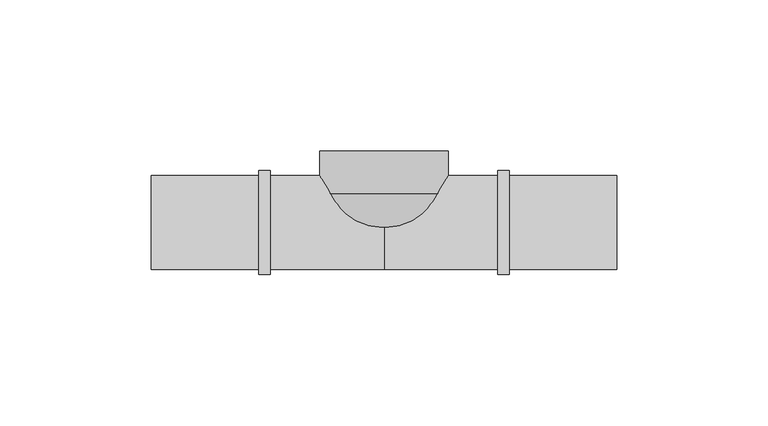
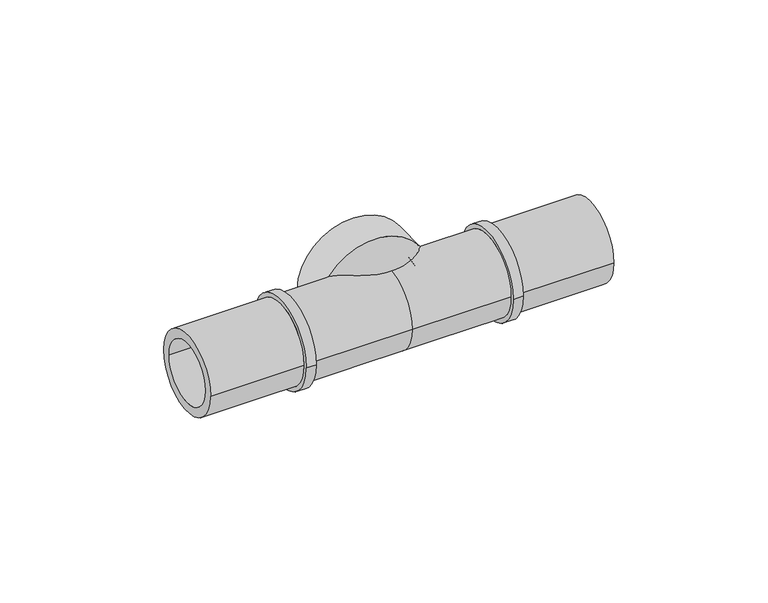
"""IFC4 building model written with IfcOpenShell, lengths in millimetres: pipe fitting geometry, FASTLOC_T-piece internal thread LX : FSL T thread LX PL."""

import ifcopenshell
import ifcopenshell.guid

model = None  # the IFC model being written
_history = None  # IfcOwnerHistory: only IFC2X3 demands one
_inside = {}  # id of a spatial element -> (the spatial element, [elements in it])
_under = {}  # id of a project, library or spatial element -> (it, [spatial elements below it])
_declared = {}  # id of a project -> (the project, [libraries it declares])
_typed = {}  # id of a type object -> (the type object, [elements of that type])
_made_of = {}  # id of a material, layer set ... -> (it, [elements and type objects made of it])


def new_model(schema):
    """Start an empty IFC model of exactly this schema.

    Asked for "IFC4X3", IfcOpenShell would pick the latest addendum, in which some entities
    have other attributes; the version numbers below select the first issue.
    IFC2X3 requires an IfcOwnerHistory on every rooted entity: one is made here for all.
    """
    global model, _history
    if schema == "IFC4X3":
        model = ifcopenshell.file(schema_version=(4, 3, 0, 0))
    else:
        model = ifcopenshell.file(schema=schema)
    _inside.clear()
    _under.clear()
    _declared.clear()
    _typed.clear()
    _made_of.clear()
    _history = None
    if model.schema == "IFC2X3":
        org = make("IfcOrganization", Name="unknown")
        user = make(
            "IfcPersonAndOrganization",
            ThePerson=make("IfcPerson", FamilyName="unknown"),
            TheOrganization=org,
        )
        app = make(
            "IfcApplication",
            ApplicationDeveloper=org,
            Version="unknown",
            ApplicationFullName="unknown",
            ApplicationIdentifier="unknown",
        )
        _history = make(
            "IfcOwnerHistory",
            OwningUser=user,
            OwningApplication=app,
            ChangeAction="ADDED",
            CreationDate=0,
        )
    return model


def make(cls, **values):
    """One entity of the class cls with the attributes given. An attribute that is None is left unset."""
    return model.create_entity(
        cls, **{name: value for name, value in values.items() if value is not None}
    )


def rooted(cls, **values):
    """An entity with a GlobalId (a new one), such as an element, a storey or a relation."""
    return make(cls, GlobalId=ifcopenshell.guid.new(), OwnerHistory=_history, **values)


def si_unit(unit_type, name, prefix=None):
    """IfcSIUnit, for example si_unit("LENGTHUNIT", "METRE", prefix="MILLI")."""
    return make("IfcSIUnit", UnitType=unit_type, Prefix=prefix, Name=name)


def assignment(units):
    """IfcUnitAssignment: the units of a project."""
    return None if units is None else make("IfcUnitAssignment", Units=units)


def point(xyz):
    """IfcCartesianPoint."""
    return None if xyz is None else make("IfcCartesianPoint", Coordinates=xyz)


def direction(xyz):
    """IfcDirection."""
    return None if xyz is None else make("IfcDirection", DirectionRatios=xyz)


def frame(location, z_axis=None, x_axis=None):
    """IfcAxis2Placement3D, a coordinate frame: its origin and axes. An axis left out is left unset."""
    return make(
        "IfcAxis2Placement3D",
        Location=point(location),
        Axis=direction(z_axis),
        RefDirection=direction(x_axis),
    )


def origin():
    """The frame at (0, 0, 0) with its axes left unset."""
    return frame((0.0, 0.0, 0.0))


def place(relative_to, where):
    """IfcLocalPlacement: puts the frame where relative to a parent placement (None: the world)."""
    return make(
        "IfcLocalPlacement", PlacementRelTo=relative_to, RelativePlacement=where
    )


def context(
    kind, dimensions, precision=None, world=None, true_north=None, identifier=None
):
    """IfcGeometricRepresentationContext, for example the 3D "Model" context."""
    return make(
        "IfcGeometricRepresentationContext",
        ContextIdentifier=identifier,
        ContextType=kind,
        CoordinateSpaceDimension=dimensions,
        Precision=precision,
        WorldCoordinateSystem=world,
        TrueNorth=true_north,
    )


def project(units=None, contexts=None):
    """IfcProject with its units and contexts."""
    return rooted(
        "IfcProject",
        Name="project",
        RepresentationContexts=contexts,
        UnitsInContext=assignment(units),
    )


def spatial(cls, under=None, at=None, **own):
    """A site, building, storey or space (cls), placed at a placement, below another one or the project."""
    s = rooted(cls, ObjectPlacement=at, **own)
    if under is not None:
        _under.setdefault(under.id(), (under, []))[1].append(s)
    return s


def polyline(points):
    """IfcPolyline through the points."""
    return make("IfcPolyline", Points=[point(p) for p in points])


def circle_curve(where, radius):
    """IfcCircle in the frame where."""
    return make("IfcCircle", Position=where, Radius=radius)


def ellipse_curve(where, semi_axis1, semi_axis2):
    """IfcEllipse in the frame where."""
    return make(
        "IfcEllipse", Position=where, SemiAxis1=semi_axis1, SemiAxis2=semi_axis2
    )


def trimmed(basis, trim1, trim2, sense, master):
    """IfcTrimmedCurve: the piece of a basis curve between two trims."""
    return make(
        "IfcTrimmedCurve",
        BasisCurve=basis,
        Trim1=trim1,
        Trim2=trim2,
        SenseAgreement=sense,
        MasterRepresentation=master,
    )


def shape(context_of_items, identifier, shape_type, items):
    """IfcShapeRepresentation: the items that make up one representation, for example the "Body"."""
    return make(
        "IfcShapeRepresentation",
        ContextOfItems=context_of_items,
        RepresentationIdentifier=identifier,
        RepresentationType=shape_type,
        Items=items,
    )


def source(mapping_origin, context_of_items, identifier, shape_type, items):
    """IfcRepresentationMap: a shape defined once, which mapped items show again and again."""
    return make(
        "IfcRepresentationMap",
        MappingOrigin=mapping_origin,
        MappedRepresentation=shape(context_of_items, identifier, shape_type, items),
    )


def transform(
    local_origin,
    x_axis=None,
    y_axis=None,
    z_axis=None,
    scale=None,
    scale2=None,
    scale3=None,
    uniform=True,
):
    """IfcCartesianTransformationOperator3D, or its non-uniform kind. x_axis, y_axis, z_axis: its Axis1, 2, 3."""
    if uniform:
        return make(
            "IfcCartesianTransformationOperator3D",
            Axis1=direction(x_axis),
            Axis2=direction(y_axis),
            LocalOrigin=point(local_origin),
            Scale=scale,
            Axis3=direction(z_axis),
        )
    return make(
        "IfcCartesianTransformationOperator3DnonUniform",
        Axis1=direction(x_axis),
        Axis2=direction(y_axis),
        LocalOrigin=point(local_origin),
        Scale=scale,
        Axis3=direction(z_axis),
        Scale2=scale2,
        Scale3=scale3,
    )


def mapped(mapping_source, mapping_target):
    """IfcMappedItem: shows the shape of a source again, moved by a transform."""
    return make(
        "IfcMappedItem", MappingSource=mapping_source, MappingTarget=mapping_target
    )


def made_of(thing, what):
    """Note that an element or type object is made of a material, layer set ...; save() writes the relation."""
    if what is not None:
        _made_of.setdefault(what.id(), (what, []))[1].append(thing)
    return thing


def element(
    cls,
    number,
    at=None,
    inside=None,
    cuts=None,
    type_object=None,
    material=None,
    context=None,
    identifier="Body",
    shape_type=None,
    held_by="IfcProductDefinitionShape",
    body=None,
    shapes=None,
    **own,
):
    """One element of the class cls, such as IfcWall. Its Tag is "e" and its number.

    at: its placement. inside: the storey or other place that contains it. cuts: it is an
    opening in that element (IfcRelVoidsElement). A single representation is given by context,
    identifier, shape_type and body (its items); several are given by shapes. held_by: the class
    of the entity that holds the representations. save() writes the other relations.
    """
    e = rooted(cls, Tag="e%d" % number, ObjectPlacement=at, **own)
    if body is not None:
        shapes = [shape(context, identifier, shape_type, body)]
    if shapes is not None:
        e.Representation = make(held_by, Representations=shapes)
    if inside is not None:
        _inside.setdefault(inside.id(), (inside, []))[1].append(e)
    if cuts is not None:
        rooted(
            "IfcRelVoidsElement", RelatingBuildingElement=cuts, RelatedOpeningElement=e
        )
    if type_object is not None:
        _typed.setdefault(type_object.id(), (type_object, []))[1].append(e)
    return made_of(e, material)


def aggregate(whole, parts):
    """IfcRelAggregates: a whole, such as a stair, and the parts it consists of."""
    return rooted("IfcRelAggregates", RelatingObject=whole, RelatedObjects=parts)


def save(model, path):
    """Write the relations noted so far, then the file.

    IfcRelAggregates (storeys below a building ...), IfcRelContainedInSpatialStructure (elements
    in a storey), IfcRelDefinesByType, IfcRelAssociatesMaterial and IfcRelDeclares: one each for
    every whole, place, type object, material and project.
    """
    for whole, parts in _under.values():
        aggregate(whole, parts)
    for where, things in _inside.values():
        rooted(
            "IfcRelContainedInSpatialStructure",
            RelatedElements=things,
            RelatingStructure=where,
        )
    for kind, things in _typed.values():
        rooted("IfcRelDefinesByType", RelatedObjects=things, RelatingType=kind)
    for what, things in _made_of.values():
        rooted("IfcRelAssociatesMaterial", RelatedObjects=things, RelatingMaterial=what)
    for by, libraries in _declared.values():
        rooted("IfcRelDeclares", RelatingContext=by, RelatedDefinitions=libraries)
    model.write(path)


def plane_surface(at):
    """IfcPlane: the flat surface through the origin of the frame at, square to its z axis."""
    return make("IfcPlane", Position=at)


def cylinder_surface(at, radius):
    """IfcCylindricalSurface: all points at the distance radius from the z axis of the frame at."""
    return make("IfcCylindricalSurface", Position=at, Radius=radius)


def revolved_surface(curve, axis_point, axis_direction):
    """IfcSurfaceOfRevolution: the curve turned about the line through axis_point along axis_direction."""
    return make(
        "IfcSurfaceOfRevolution",
        SweptCurve=make("IfcArbitraryOpenProfileDef", ProfileType="CURVE", Curve=curve),
        AxisPosition=make("IfcAxis1Placement", Location=point(axis_point), Axis=direction(axis_direction)),
    )


def advanced_brep(points, edges, surfaces, faces):
    """IfcAdvancedBrep: a solid bounded by faces that lie on surfaces and meet in shared edges.

    An edge is (start, end): straight between two places in points (the first is 0);
    or (start, end, curve); or (start, end, curve, False) where it runs against its curve.
    A face is (place in surfaces, loops), or (place, loops, False) where it looks against
    its surface's normal. A loop lists edges by number (the first is 1), with a minus sign
    where the edge is run from its end to its start. The first loop is the outer one.
    """
    corners = [point(p) for p in points]
    vertices = [make("IfcVertexPoint", VertexGeometry=c) for c in corners]
    made = []
    for start, end, *more in edges:
        made.append(
            make(
                "IfcEdgeCurve",
                EdgeStart=vertices[start],
                EdgeEnd=vertices[end],
                EdgeGeometry=more[0] if more else make("IfcPolyline", Points=[corners[start], corners[end]]),
                SameSense=more[1] if len(more) > 1 else True,
            )
        )
    hull = []
    for where, loops, *sense in faces:
        bounds = []
        for j, loop in enumerate(loops):
            ring = [make("IfcOrientedEdge", EdgeElement=made[abs(k) - 1], Orientation=k > 0) for k in loop]
            bounds.append(
                make(
                    "IfcFaceOuterBound" if j == 0 else "IfcFaceBound",
                    Bound=make("IfcEdgeLoop", EdgeList=ring),
                    Orientation=True,
                )
            )
        hull.append(make("IfcAdvancedFace", Bounds=bounds, FaceSurface=surfaces[where], SameSense=sense[0] if sense else True))
    return make("IfcAdvancedBrep", Outer=make("IfcClosedShell", CfsFaces=hull))


def pipe_fitting_35dab2b8(model_context):
    return source(origin(), model_context, "Body", "AdvancedBrep", [
        advanced_brep(
        [(9.0, -3.3401923, 0.0), (-9.0, -3.3401923, 0.0), (-21.25, 9.4, 0.0), (21.25, 9.4, 0.0), (9.0, 1.9166852, 0.0), (-9.0, 1.9166852, 0.0), (16.0, 9.4, 0.0), (-16.0, 9.4, 0.0), (16.0, 23.5, 0.0), (-16.0, 23.5, 0.0), (-21.25, 23.5, 0.0), (21.25, 23.5, 0.0)],
        [
            (0, 1, circle_curve(frame((0.0, -3.3401923, 0.0), z_axis=(0.0, 1.0, 0.0), x_axis=(-1.0, 0.0, 0.0)), 9.0)),
            (1, 2, circle_curve(frame((-8.5, 9.4, 0.0), z_axis=(0.0, 0.0, -1.0), x_axis=(0.0, 1.0, 0.0)), 12.75)),
            (2, 3, circle_curve(frame((0.0, 9.4, 0.0), z_axis=(0.0, -1.0, 0.0), x_axis=(-1.0, 0.0, 0.0)), 21.25)),
            (3, 0, circle_curve(frame((8.5, 9.4, 0.0), z_axis=(0.0, 0.0, -1.0), x_axis=(0.0, 1.0, 0.0)), 12.75)),
            (4, 5, circle_curve(frame((0.0, 1.9166852, 0.0), z_axis=(0.0, 1.0, 0.0), x_axis=(-1.0, 0.0, 0.0)), 9.0)),
            (5, 1),
            (0, 4),
            (6, 7, circle_curve(frame((0.0, 9.4, 0.0), z_axis=(0.0, 1.0, 0.0), x_axis=(-1.0, 0.0, 0.0)), 16.0)),
            (7, 5, circle_curve(frame((-8.5, 9.4, 0.0), z_axis=(0.0, 0.0, 1.0), x_axis=(0.0, 1.0, 0.0)), 7.5)),
            (4, 6, circle_curve(frame((8.5, 9.4, 0.0), z_axis=(0.0, 0.0, 1.0), x_axis=(0.0, 1.0, 0.0)), 7.5)),
            (8, 9, circle_curve(frame((0.0, 23.5, 0.0), z_axis=(0.0, 1.0, 0.0), x_axis=(-1.0, 0.0, 0.0)), 16.0)),
            (9, 7),
            (6, 8),
            (2, 10),
            (10, 11, circle_curve(frame((0.0, 23.5, 0.0), z_axis=(0.0, -1.0, 0.0), x_axis=(-1.0, 0.0, 0.0)), 21.25)),
            (11, 3),
            (1, 0, circle_curve(frame((0.0, -3.3401923, 0.0), z_axis=(0.0, 1.0, 0.0), x_axis=(1.0, 0.0, 0.0)), 9.0)),
            (3, 2, circle_curve(frame((0.0, 9.4, 0.0), z_axis=(0.0, -1.0, 0.0), x_axis=(1.0, 0.0, 0.0)), 21.25)),
            (5, 4, circle_curve(frame((0.0, 1.9166852, 0.0), z_axis=(0.0, 1.0, 0.0), x_axis=(1.0, 0.0, 0.0)), 9.0)),
            (7, 6, circle_curve(frame((0.0, 9.4, 0.0), z_axis=(0.0, 1.0, 0.0), x_axis=(1.0, 0.0, 0.0)), 16.0)),
            (9, 8, circle_curve(frame((0.0, 23.5, 0.0), z_axis=(0.0, 1.0, 0.0), x_axis=(1.0, 0.0, 0.0)), 16.0)),
            (10, 11, circle_curve(frame((0.0, 23.5, 0.0), z_axis=(0.0, 1.0, 0.0), x_axis=(1.0, 0.0, 0.0)), 21.25)),
        ],
        [
            revolved_surface(trimmed(ellipse_curve(frame((-8.5, 9.4, 0.0), z_axis=(0.0, 0.0, 1.0), x_axis=(0.0, 1.0, 0.0)), 12.75, 12.75), [point((-21.25, 9.4, 0.0))], [point((-9.0, -3.3401923, 0.0))], True, "CARTESIAN"), (0.0, 0.0, 0.0), (0.0, -1.0, 0.0)),
            revolved_surface(polyline([(-9.0, -3.3401923, 0.0), (-9.0, 1.9166852, 0.0)]), (0.0, 0.0, 0.0), (0.0, -1.0, 0.0)),
            revolved_surface(trimmed(ellipse_curve(frame((-8.5, 9.4, 0.0), z_axis=(0.0, 0.0, -1.0), x_axis=(0.0, 1.0, 0.0)), 7.5, 7.5), [point((-9.0, 1.9166852, 0.0))], [point((-16.0, 9.4, 0.0))], True, "CARTESIAN"), (0.0, 0.0, 0.0), (0.0, -1.0, 0.0)),
            revolved_surface(polyline([(-16.0, 9.4, 0.0), (-16.0, 23.5, 0.0)]), (0.0, 0.0, 0.0), (0.0, -1.0, 0.0)),
            cylinder_surface(frame((0.0, 0.0, 0.0), z_axis=(0.0, -1.0, 0.0), x_axis=(-1.0, 0.0, 0.0)), 21.25),
            revolved_surface(trimmed(ellipse_curve(frame((8.5, 9.4, 0.0), z_axis=(0.0, 0.0, -1.0), x_axis=(0.0, 1.0, 0.0)), 12.75, 12.75), [point((21.25, 9.4, 0.0))], [point((9.0, -3.3401923, 0.0))], True, "CARTESIAN"), (0.0, 0.0, 0.0), (0.0, -1.0, 0.0)),
            revolved_surface(polyline([(9.0, -3.3401923, 0.0), (9.0, 1.9166852, 0.0)]), (0.0, 0.0, 0.0), (0.0, -1.0, 0.0)),
            revolved_surface(trimmed(ellipse_curve(frame((8.5, 9.4, 0.0), z_axis=(0.0, 0.0, 1.0), x_axis=(0.0, 1.0, 0.0)), 7.5, 7.5), [point((9.0, 1.9166852, 0.0))], [point((16.0, 9.4, 0.0))], True, "CARTESIAN"), (0.0, 0.0, 0.0), (0.0, -1.0, 0.0)),
            revolved_surface(polyline([(16.0, 9.4, 0.0), (16.0, 23.5, 0.0)]), (0.0, 0.0, 0.0), (0.0, -1.0, 0.0)),
            plane_surface(frame((0.0, 23.5, 0.0), z_axis=(0.0, 1.0, 0.0), x_axis=(1.0, 0.0, 0.0))),
            cylinder_surface(frame((0.0, 0.0, 0.0), z_axis=(0.0, -1.0, 0.0), x_axis=(1.0, 0.0, 0.0)), 21.25),
        ],
        [
            (0, [[1, 2, 3, 4]]),
            (1, [[5, 6, -1, 7]]),
            (2, [[8, 9, -5, 10]]),
            (3, [[11, 12, -8, 13]]),
            (4, [[-3, 14, 15, 16]]),
            (5, [[17, -4, 18, -2]]),
            (6, [[19, -7, -17, -6]]),
            (7, [[20, -10, -19, -9]]),
            (8, [[21, -13, -20, -12]]),
            (9, [[22, -15], [-21, -11]]),
            (10, [[-18, -16, -22, -14]]),
        ],
    ),
        advanced_brep(
        [(41.3, 17.2, 0.0), (41.3, -17.2, 0.0), (37.6, -17.2, 0.0), (37.6, 17.2, 0.0), (76.8, 15.5, 0.0), (76.8, -15.5, 0.0), (41.3, -15.5, 0.0), (41.3, 15.5, 0.0), (-76.8, 11.95, 0.0), (-76.8, -11.95, 0.0), (76.8, -11.95, 0.0), (76.8, 11.95, 0.0), (-41.3, 15.5, 0.0), (-41.3, -15.5, 0.0), (-76.8, -15.5, 0.0), (-76.8, 15.5, 0.0), (-37.6, 17.2, 0.0), (-37.6, -17.2, 0.0), (-41.3, -17.2, 0.0), (-41.3, 17.2, 0.0), (0.0, 15.5, 0.0), (0.0, -15.5, 0.0), (-37.6, -15.5, 0.0), (-37.6, 15.5, 0.0), (37.6, 15.5, 0.0), (37.6, -15.5, 0.0)],
        [
            (0, 1, circle_curve(frame((41.3, 0.0, 0.0), z_axis=(-1.0, 0.0, 0.0), x_axis=(0.0, -1.0, 0.0)), 17.2)),
            (1, 2),
            (2, 3, circle_curve(frame((37.6, 0.0, 0.0), z_axis=(1.0, 0.0, 0.0), x_axis=(0.0, -1.0, 0.0)), 17.2)),
            (3, 0),
            (4, 5, circle_curve(frame((76.8, 0.0, 0.0), z_axis=(-1.0, 0.0, 0.0), x_axis=(0.0, -1.0, 0.0)), 15.5)),
            (5, 6),
            (6, 7, circle_curve(frame((41.3, 0.0, 0.0), z_axis=(1.0, 0.0, 0.0), x_axis=(0.0, -1.0, 0.0)), 15.5)),
            (7, 4),
            (8, 9, circle_curve(frame((-76.8, 0.0, 0.0), z_axis=(-1.0, 0.0, 0.0), x_axis=(0.0, -1.0, 0.0)), 11.95)),
            (9, 10),
            (10, 11, circle_curve(frame((76.8, 0.0, 0.0), z_axis=(1.0, 0.0, 0.0), x_axis=(0.0, -1.0, 0.0)), 11.95)),
            (11, 8),
            (12, 13, circle_curve(frame((-41.3, 0.0, 0.0), z_axis=(-1.0, 0.0, 0.0), x_axis=(0.0, -1.0, 0.0)), 15.5)),
            (13, 14),
            (14, 15, circle_curve(frame((-76.8, 0.0, 0.0), z_axis=(1.0, 0.0, 0.0), x_axis=(0.0, -1.0, 0.0)), 15.5)),
            (15, 12),
            (16, 17, circle_curve(frame((-37.6, 0.0, 0.0), z_axis=(-1.0, 0.0, 0.0), x_axis=(0.0, -1.0, 0.0)), 17.2)),
            (17, 18),
            (18, 19, circle_curve(frame((-41.3, 0.0, 0.0), z_axis=(1.0, 0.0, 0.0), x_axis=(0.0, -1.0, 0.0)), 17.2)),
            (19, 16),
            (20, 21, circle_curve(frame((0.0, 0.0, 0.0), z_axis=(-1.0, 0.0, 0.0), x_axis=(0.0, -1.0, 0.0)), 15.5)),
            (21, 22),
            (22, 23, circle_curve(frame((-37.6, 0.0, 0.0), z_axis=(1.0, 0.0, 0.0), x_axis=(0.0, -1.0, 0.0)), 15.5)),
            (23, 20),
            (24, 25, circle_curve(frame((37.6, 0.0, 0.0), z_axis=(-1.0, 0.0, 0.0), x_axis=(0.0, -1.0, 0.0)), 15.5)),
            (25, 21),
            (20, 24),
            (1, 0, circle_curve(frame((41.3, 0.0, 0.0), z_axis=(-1.0, 0.0, 0.0), x_axis=(0.0, 1.0, 0.0)), 17.2)),
            (3, 2, circle_curve(frame((37.6, 0.0, 0.0), z_axis=(1.0, 0.0, 0.0), x_axis=(0.0, 1.0, 0.0)), 17.2)),
            (6, 7, circle_curve(frame((41.3, 0.0, 0.0), z_axis=(-1.0, 0.0, 0.0), x_axis=(0.0, 1.0, 0.0)), 15.5)),
            (5, 4, circle_curve(frame((76.8, 0.0, 0.0), z_axis=(-1.0, 0.0, 0.0), x_axis=(0.0, 1.0, 0.0)), 15.5)),
            (10, 11, circle_curve(frame((76.8, 0.0, 0.0), z_axis=(-1.0, 0.0, 0.0), x_axis=(0.0, 1.0, 0.0)), 11.95)),
            (9, 8, circle_curve(frame((-76.8, 0.0, 0.0), z_axis=(-1.0, 0.0, 0.0), x_axis=(0.0, 1.0, 0.0)), 11.95)),
            (14, 15, circle_curve(frame((-76.8, 0.0, 0.0), z_axis=(-1.0, 0.0, 0.0), x_axis=(0.0, 1.0, 0.0)), 15.5)),
            (13, 12, circle_curve(frame((-41.3, 0.0, 0.0), z_axis=(-1.0, 0.0, 0.0), x_axis=(0.0, 1.0, 0.0)), 15.5)),
            (18, 19, circle_curve(frame((-41.3, 0.0, 0.0), z_axis=(-1.0, 0.0, 0.0), x_axis=(0.0, 1.0, 0.0)), 17.2)),
            (17, 16, circle_curve(frame((-37.6, 0.0, 0.0), z_axis=(-1.0, 0.0, 0.0), x_axis=(0.0, 1.0, 0.0)), 17.2)),
            (22, 23, circle_curve(frame((-37.6, 0.0, 0.0), z_axis=(-1.0, 0.0, 0.0), x_axis=(0.0, 1.0, 0.0)), 15.5)),
            (21, 20, circle_curve(frame((0.0, 0.0, 0.0), z_axis=(-1.0, 0.0, 0.0), x_axis=(0.0, 1.0, 0.0)), 15.5)),
            (25, 24, circle_curve(frame((37.6, 0.0, 0.0), z_axis=(-1.0, 0.0, 0.0), x_axis=(0.0, 1.0, 0.0)), 15.5)),
        ],
        [
            cylinder_surface(frame((0.0, 0.0, 0.0), z_axis=(1.0, 0.0, 0.0), x_axis=(0.0, -1.0, 0.0)), 17.2),
            cylinder_surface(frame((0.0, 0.0, 0.0), z_axis=(1.0, 0.0, 0.0), x_axis=(0.0, -1.0, 0.0)), 15.5),
            revolved_surface(polyline([(76.8, -11.95, 0.0), (-76.8, -11.95, 0.0)]), (0.0, 0.0, 0.0), (1.0, 0.0, 0.0)),
            cylinder_surface(frame((0.0, 0.0, 0.0), z_axis=(1.0, 0.0, 0.0), x_axis=(0.0, 1.0, 0.0)), 17.2),
            plane_surface(frame((41.3, 0.0, 0.0), z_axis=(1.0, 0.0, 0.0), x_axis=(0.0, 1.0, 0.0))),
            cylinder_surface(frame((0.0, 0.0, 0.0), z_axis=(1.0, 0.0, 0.0), x_axis=(0.0, 1.0, 0.0)), 15.5),
            plane_surface(frame((76.8, 0.0, 0.0), z_axis=(1.0, 0.0, 0.0), x_axis=(0.0, 1.0, 0.0))),
            revolved_surface(polyline([(76.8, 11.95, 0.0), (-76.8, 11.95, 0.0)]), (0.0, 0.0, 0.0), (1.0, 0.0, 0.0)),
            plane_surface(frame((-76.8, 0.0, 0.0), z_axis=(-1.0, 0.0, 0.0), x_axis=(0.0, 1.0, 0.0))),
            plane_surface(frame((-41.3, 0.0, 0.0), z_axis=(-1.0, 0.0, 0.0), x_axis=(0.0, 1.0, 0.0))),
            plane_surface(frame((-37.6, 0.0, 0.0), z_axis=(1.0, 0.0, 0.0), x_axis=(0.0, 1.0, 0.0))),
            plane_surface(frame((37.6, 0.0, 0.0), z_axis=(-1.0, 0.0, 0.0), x_axis=(0.0, 1.0, 0.0))),
        ],
        [
            (0, [[1, 2, 3, 4]]),
            (1, [[5, 6, 7, 8]]),
            (2, [[9, 10, 11, 12]]),
            (1, [[13, 14, 15, 16]]),
            (0, [[17, 18, 19, 20]]),
            (1, [[21, 22, 23, 24]]),
            (1, [[25, 26, -21, 27]]),
            (3, [[28, -4, 29, -2]]),
            (4, [[-28, -1], [30, -7]]),
            (5, [[31, -8, -30, -6]]),
            (6, [[-31, -5], [32, -11]]),
            (7, [[33, -12, -32, -10]]),
            (8, [[34, -15], [-33, -9]]),
            (5, [[35, -16, -34, -14]]),
            (9, [[36, -19], [-35, -13]]),
            (3, [[37, -20, -36, -18]]),
            (10, [[-37, -17], [38, -23]]),
            (5, [[39, -24, -38, -22]]),
            (5, [[40, -27, -39, -26]]),
            (11, [[-29, -3], [-40, -25]]),
        ],
    ),
    ])


if __name__ == "__main__":
    model = new_model("IFC4")
    model_context = context("Model", 3, world=origin())
    ifc_project = project(units=[si_unit("LENGTHUNIT", "METRE", prefix="MILLI")], contexts=[model_context])
    site = spatial("IfcSite", under=ifc_project)
    building = spatial("IfcBuilding", under=site)
    placement = place(None, origin())
    pipe_fitting_shape = pipe_fitting_35dab2b8(model_context)
    element("IfcPipeFitting", 1, ObjectType="FASTLOC_T-piece internal thread LX : FSL T thread LX PL", at=placement, inside=building, context=model_context, shape_type="MappedRepresentation", body=[
        mapped(pipe_fitting_shape, transform((0.0, 0.0, 0.0), x_axis=(1.0, 0.0, 0.0), y_axis=(0.0, 1.0, 0.0), z_axis=(0.0, 0.0, 1.0))),
    ])
    save(model, "model.ifc")
